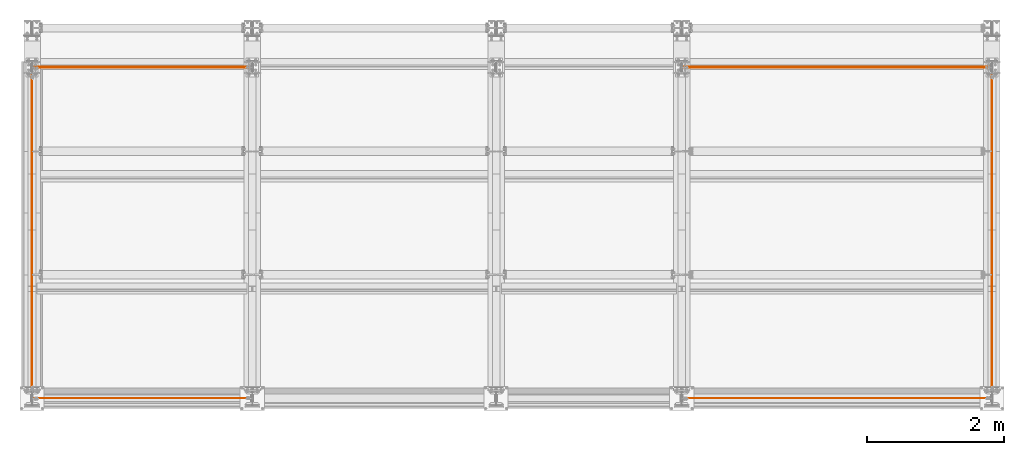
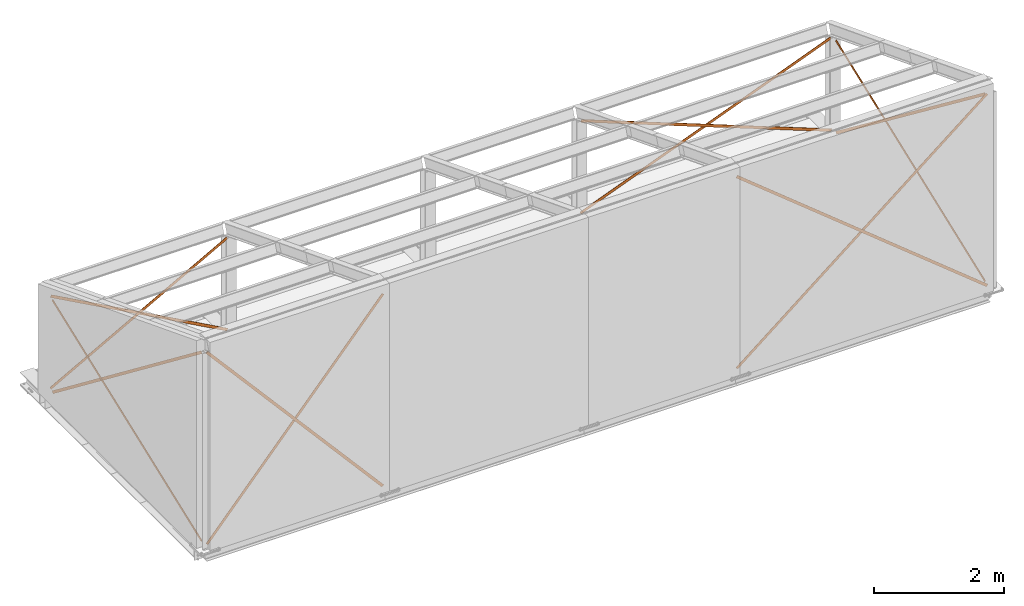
# One storey, part 66 of 66: 12 proxies.
"""IFC4 building model written with IfcOpenShell, lengths in metres."""

from ifc_helpers import new_model, si_unit, frame, origin_with_axes, origin_2d_with_axis, place, context, project, spatial, rectangle, extrude, clip, halfspace, material, material_profile, profile_set, profile_usage, type_object, element, save


model = new_model("IFC4")

# Units and contexts
model_context = context("Model", 3, precision=1e-05, world=origin_with_axes())
ifc_project = project(units=[si_unit("LENGTHUNIT", "METRE"), si_unit("AREAUNIT", "SQUARE_METRE"), si_unit("VOLUMEUNIT", "CUBIC_METRE"), si_unit("MASSUNIT", "GRAM", prefix="KILO"), si_unit("TIMEUNIT", "SECOND"), si_unit("PLANEANGLEUNIT", "RADIAN"), si_unit("SOLIDANGLEUNIT", "STERADIAN"), si_unit("THERMODYNAMICTEMPERATUREUNIT", "DEGREE_CELSIUS")], contexts=[model_context])

# Site, building, storey
placement_1 = place(None, origin_with_axes())
site = spatial("IfcSite", under=ifc_project, at=placement_1, Name="Italia", CompositionType="ELEMENT")
building = spatial("IfcBuilding", under=site, at=placement_1, Name="Uffici", CompositionType="ELEMENT")
storey_placement = place(None, frame((0.0, 0.0, 3.299999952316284), z_axis=(0.0, 0.0, 1.0), x_axis=(1.0, 0.0, 0.0)))
storey = spatial("IfcBuildingStorey", under=building, at=storey_placement, Name="Storey 1", CompositionType="ELEMENT", Elevation=3.299999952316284)

# Proxies
ifc_material = material(Name="Acciaio controventi", Category="Acciaio controventi")
ifc_material_profile = material_profile(ifc_material, rectangle(XDim=0.005, YDim=0.05, at=origin_2d_with_axis()), Name="4 Piatto50x5")
ifc_profile_set = profile_set([ifc_material_profile])
member_type_1 = type_object("IfcMemberType", Name="4 Piatto50x5", PredefinedType="MEMBER", material=ifc_profile_set)
placement_2 = place(placement_1, origin_with_axes())
proxy_1_placement = place(placement_2, frame((13.970001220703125, -2.630031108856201, 8.976302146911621), z_axis=(0.0, 0.0, 1.0), x_axis=(1.0, 0.0, 0.0)))
element("IfcBuildingElementProxy", 1, at=proxy_1_placement, inside=storey, type_object=member_type_1, Name="0", context=model_context, shape_type="Clipping", body=[
    clip(clip(extrude(rectangle(XDim=0.005, YDim=0.05, at=origin_2d_with_axis()), frame((0.0, 0.0, 0.0), z_axis=(0.0, 0.79404228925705, -0.607862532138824), x_axis=(-1.0, 0.0, 0.0)), (0.0, 0.0, 1.0), 12.5734), halfspace(frame((0.0, 2.73787, -2.09592), z_axis=(2.99562714e-07, -0.794039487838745, 0.607866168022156), x_axis=(1.0, 3.77264257e-07, 0.0)), False)), halfspace(frame((0.0, 7.33589, -5.61584), z_axis=(0.0, -0.794042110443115, 0.607862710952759), x_axis=(1.0, 0.0, 0.0)), True)),
])
ifc_profile_usage_1 = profile_usage(ifc_profile_set, cardinal=5)
member_type_2 = type_object("IfcMemberType", Name="4 Piatto50x5", PredefinedType="MEMBER", material=ifc_profile_usage_1)
proxy_2_placement = place(placement_2, frame((0.0, -2.612285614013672, 9.000502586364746), z_axis=(0.0, 0.0, 1.0), x_axis=(1.0, 0.0, 0.0)))
element("IfcBuildingElementProxy", 2, at=proxy_2_placement, inside=storey, type_object=member_type_2, Name="0", context=model_context, shape_type="Clipping", body=[
    clip(clip(extrude(rectangle(XDim=0.005, YDim=0.05, at=origin_2d_with_axis()), frame((0.0, 0.0, 0.0), z_axis=(0.0, 0.792104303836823, -0.610385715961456), x_axis=(-1.0, 0.0, 0.0)), (0.0, 0.0, 1.0), 12.5738), halfspace(frame((0.0, 2.72017, -2.09613), z_axis=(0.0, -0.792105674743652, 0.610383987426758), x_axis=(1.0, 0.0, 0.0)), False)), halfspace(frame((0.0, 7.3181, -5.63924), z_axis=(0.0, -0.792095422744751, 0.610397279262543), x_axis=(1.0, 0.0, 0.0)), True)),
])
ifc_profile_usage_2 = profile_usage(ifc_profile_set, cardinal=5)
member_type_3 = type_object("IfcMemberType", Name="4 Piatto50x5", PredefinedType="MEMBER", material=ifc_profile_usage_2)
proxy_3_placement = place(placement_2, frame((7.067131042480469, 4.815000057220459, 6.035168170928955), z_axis=(0.0, 0.0, 1.0), x_axis=(1.0, 0.0, 0.0)))
element("IfcBuildingElementProxy", 3, at=proxy_3_placement, inside=storey, type_object=member_type_3, Name="0", context=model_context, shape_type="Clipping", body=[
    clip(clip(extrude(rectangle(XDim=0.005, YDim=0.05, at=origin_2d_with_axis()), frame((0.0, 0.0, 0.0), z_axis=(0.931649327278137, 0.0, -0.363358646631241), x_axis=(0.0, 1.0, 0.0)), (0.0, 0.0, 1.0), 9.90214), halfspace(frame((2.41859, 0.0, -0.94329), z_axis=(-0.931647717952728, 0.0, 0.363362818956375), x_axis=(0.0, -1.0, 0.0)), False)), halfspace(frame((6.88147, 0.0, -2.68389), z_axis=(-0.931650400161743, 0.0, 0.363355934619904), x_axis=(0.0, -1.0, 0.0)), True)),
])
ifc_profile_usage_3 = profile_usage(ifc_profile_set, cardinal=5)
member_type_4 = type_object("IfcMemberType", Name="4 Piatto50x5", PredefinedType="MEMBER", material=ifc_profile_usage_3)
proxy_4_placement = place(placement_2, frame((7.132548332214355, 4.820000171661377, 2.437139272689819), z_axis=(0.0, 0.0, 1.0), x_axis=(1.0, 0.0, 0.0)))
element("IfcBuildingElementProxy", 4, at=proxy_4_placement, inside=storey, type_object=member_type_4, Name="0", context=model_context, shape_type="Clipping", body=[
    clip(clip(extrude(rectangle(XDim=0.005, YDim=0.05, at=origin_2d_with_axis()), frame((0.0, 0.0, 0.0), z_axis=(0.931649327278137, 0.0, 0.363358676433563), x_axis=(0.0, 1.0, 0.0)), (0.0, 0.0, 1.0), 9.90214), halfspace(frame((2.34385, 0.0, 0.914142), z_axis=(-0.931650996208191, 0.0, -0.363354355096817), x_axis=(0.0, -1.0, 0.0)), False)), halfspace(frame((6.80674, 0.0, 2.65474), z_axis=(-0.931645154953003, 0.0, -0.363369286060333), x_axis=(0.0, -1.0, 0.0)), True)),
])
ifc_profile_usage_4 = profile_usage(ifc_profile_set, cardinal=5)
member_type_5 = type_object("IfcMemberType", Name="4 Piatto50x5", PredefinedType="MEMBER", material=ifc_profile_usage_4)
proxy_5_placement = place(placement_2, frame((-1.760275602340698, 4.820000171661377, 6.081572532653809), z_axis=(0.0, 0.0, 1.0), x_axis=(1.0, 0.0, 0.0)))
element("IfcBuildingElementProxy", 5, at=proxy_5_placement, inside=storey, type_object=member_type_5, Name="0", context=model_context, shape_type="Clipping", body=[
    clip(clip(extrude(rectangle(XDim=0.005, YDim=0.05, at=origin_2d_with_axis()), frame((0.0, 0.0, 0.0), z_axis=(0.875843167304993, 0.0, -0.482595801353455), x_axis=(0.0, 1.0, 0.0)), (0.0, 0.0, 1.0), 7.59076), halfspace(frame((1.79286, 0.0, -0.987877), z_axis=(-0.875849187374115, 0.0, 0.482584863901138), x_axis=(0.0, -1.0, 0.0)), False)), halfspace(frame((4.94145, 0.0, -2.72277), z_axis=(-0.875845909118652, 0.0, 0.482590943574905), x_axis=(0.0, -1.0, 0.0)), True)),
])
ifc_profile_usage_5 = profile_usage(ifc_profile_set, cardinal=5)
member_type_6 = type_object("IfcMemberType", Name="4 Piatto50x5", PredefinedType="MEMBER", material=ifc_profile_usage_5)
proxy_6_placement = place(placement_2, frame((-1.683042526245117, 4.815000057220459, 2.418301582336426), z_axis=(0.0, 0.0, 1.0), x_axis=(1.0, 0.0, 0.0)))
element("IfcBuildingElementProxy", 6, at=proxy_6_placement, inside=storey, type_object=member_type_6, Name="0", context=model_context, shape_type="Clipping", body=[
    clip(clip(extrude(rectangle(XDim=0.005, YDim=0.05, at=origin_2d_with_axis()), frame((0.0, 0.0, 0.0), z_axis=(0.875843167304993, 0.0, 0.482595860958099), x_axis=(0.0, 1.0, 0.0)), (0.0, 0.0, 1.0), 7.59076), halfspace(frame((1.70687, 0.0, 0.940495), z_axis=(-0.875842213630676, -2.99500556e-07, -0.48259761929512), x_axis=(3.41957218e-07, -1.0, 0.0)), False)), halfspace(frame((4.85546, 0.0, 2.67539), z_axis=(-0.875842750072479, 0.0, -0.482596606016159), x_axis=(0.0, -1.0, 0.0)), True)),
])
ifc_profile_usage_6 = profile_usage(ifc_profile_set, cardinal=5)
member_type_7 = type_object("IfcMemberType", Name="4 Piatto50x5", PredefinedType="MEMBER", material=ifc_profile_usage_6)
proxy_7_placement = place(placement_2, frame((13.970001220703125, -2.484958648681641, 2.36834454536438), z_axis=(0.0, 0.0, 1.0), x_axis=(1.0, 0.0, 0.0)))
element("IfcBuildingElementProxy", 7, at=proxy_7_placement, inside=storey, type_object=member_type_7, Name="0", context=model_context, shape_type="Clipping", body=[
    clip(clip(extrude(rectangle(XDim=0.005, YDim=0.05, at=origin_2d_with_axis()), frame((0.0, 0.0, 0.0), z_axis=(0.0, 0.935024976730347, 0.354581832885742), x_axis=(-1.0, 0.0, 0.0)), (0.0, 0.0, 1.0), 10.6127), halfspace(frame((0.0, 2.58867, 0.981681), z_axis=(0.0, -0.935025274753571, -0.354581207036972), x_axis=(1.0, 0.0, 0.0)), False)), halfspace(frame((0.0, 7.19761, 2.72949), z_axis=(-2.99562231e-07, -0.935021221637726, -0.354591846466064), x_axis=(1.0, -3.20380138e-07, 0.0)), True)),
])
ifc_profile_usage_7 = profile_usage(ifc_profile_set, cardinal=5)
member_type_8 = type_object("IfcMemberType", Name="4 Piatto50x5", PredefinedType="MEMBER", material=ifc_profile_usage_7)
proxy_8_placement = place(placement_2, frame((0.0, -2.484958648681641, 2.36834454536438), z_axis=(0.0, 0.0, 1.0), x_axis=(1.0, 0.0, 0.0)))
element("IfcBuildingElementProxy", 8, at=proxy_8_placement, inside=storey, type_object=member_type_8, Name="0", context=model_context, shape_type="Clipping", body=[
    clip(clip(extrude(rectangle(XDim=0.005, YDim=0.05, at=origin_2d_with_axis()), frame((0.0, 0.0, 0.0), z_axis=(0.0, 0.935024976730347, 0.354581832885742), x_axis=(-1.0, 0.0, 0.0)), (0.0, 0.0, 1.0), 10.6127), halfspace(frame((0.0, 2.58867, 0.981681), z_axis=(2.99508116e-07, -0.935025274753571, -0.35458117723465), x_axis=(1.0, 3.20320879e-07, 0.0)), False)), halfspace(frame((0.0, 7.19761, 2.72949), z_axis=(-2.99515051e-07, -0.935022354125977, -0.354588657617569), x_axis=(1.0, -3.20329292e-07, 0.0)), True)),
])
ifc_profile_usage_8 = profile_usage(ifc_profile_set, cardinal=5)
member_type_9 = type_object("IfcMemberType", Name="4 Piatto50x5", PredefinedType="MEMBER", material=ifc_profile_usage_8)
proxy_9_placement = place(placement_2, frame((-1.663764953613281, 0.0, 1.381460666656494), z_axis=(0.0, 0.0, 1.0), x_axis=(1.0, 0.0, 0.0)))
element("IfcBuildingElementProxy", 9, at=proxy_9_placement, inside=storey, type_object=member_type_9, Name="0", context=model_context, shape_type="Clipping", body=[
    clip(clip(extrude(rectangle(XDim=0.005, YDim=0.05, at=origin_2d_with_axis()), frame((0.0, 0.0, 0.0), z_axis=(0.655162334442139, 0.0, 0.755488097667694), x_axis=(0.0, 1.0, 0.0)), (0.0, 0.0, 1.0), 10.1554), halfspace(frame((1.69876, 0.0, 1.95889), z_axis=(-0.655166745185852, -2.99510845e-07, -0.755484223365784), x_axis=(4.57152083e-07, -1.0, 0.0)), False)), halfspace(frame((4.83705, 0.0, 5.57775), z_axis=(-0.655166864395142, -2.99508656e-07, -0.755484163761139), x_axis=(4.57148673e-07, -1.0, 0.0)), True)),
])
ifc_profile_usage_9 = profile_usage(ifc_profile_set, cardinal=5)
member_type_10 = type_object("IfcMemberType", Name="4 Piatto50x5", PredefinedType="MEMBER", material=ifc_profile_usage_9)
proxy_10_placement = place(placement_2, frame((-1.784644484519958, 0.0, 9.053714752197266), z_axis=(0.0, 0.0, 1.0), x_axis=(1.0, 0.0, 0.0)))
element("IfcBuildingElementProxy", 10, at=proxy_10_placement, inside=storey, type_object=member_type_10, Name="0", context=model_context, shape_type="Clipping", body=[
    clip(clip(extrude(rectangle(XDim=0.005, YDim=0.05, at=origin_2d_with_axis()), frame((0.0, 0.0, 0.0), z_axis=(0.655162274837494, 0.0, -0.755488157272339), x_axis=(0.0, 1.0, 0.0)), (0.0, 0.0, 1.0), 10.1554), halfspace(frame((1.81636, 0.0, -2.0945), z_axis=(-0.655177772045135, 0.0, 0.755474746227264), x_axis=(0.0, -1.0, 0.0)), False)), halfspace(frame((4.95465, 0.0, -5.71337), z_axis=(-0.655154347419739, 2.9951002e-07, 0.755495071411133), x_axis=(-4.57159473e-07, -1.0, 0.0)), True)),
])
ifc_profile_usage_10 = profile_usage(ifc_profile_set, cardinal=5)
member_type_11 = type_object("IfcMemberType", Name="4 Piatto50x5", PredefinedType="MEMBER", material=ifc_profile_usage_10)
proxy_11_placement = place(placement_2, frame((7.114111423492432, 0.0, 1.429749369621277), z_axis=(0.0, 0.0, 1.0), x_axis=(1.0, 0.0, 0.0)))
element("IfcBuildingElementProxy", 11, at=proxy_11_placement, inside=storey, type_object=member_type_11, Name="0", context=model_context, shape_type="Clipping", body=[
    clip(clip(extrude(rectangle(XDim=0.005, YDim=0.05, at=origin_2d_with_axis()), frame((0.0, 0.0, 0.0), z_axis=(0.777085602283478, 0.0, 0.629394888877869), x_axis=(0.0, 1.0, 0.0)), (0.0, 0.0, 1.0), 11.9808), halfspace(frame((2.3674, 0.0, 1.91746), z_axis=(-0.777071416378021, 0.0, -0.629412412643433), x_axis=(0.0, -1.0, 0.0)), False)), halfspace(frame((6.82939, 0.0, 5.53141), z_axis=(-0.777071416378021, 0.0, -0.629412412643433), x_axis=(0.0, -1.0, 0.0)), True)),
])
ifc_profile_usage_11 = profile_usage(ifc_profile_set, cardinal=5)
member_type_12 = type_object("IfcMemberType", Name="4 Piatto50x5", PredefinedType="MEMBER", material=ifc_profile_usage_11)
proxy_12_placement = place(placement_2, frame((7.000816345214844, 0.0, 8.970376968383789), z_axis=(0.0, 0.0, 1.0), x_axis=(1.0, 0.0, 0.0)))
element("IfcBuildingElementProxy", 12, at=proxy_12_placement, inside=storey, type_object=member_type_12, Name="0", context=model_context, shape_type="Clipping", body=[
    clip(clip(extrude(rectangle(XDim=0.005, YDim=0.05, at=origin_2d_with_axis()), frame((0.0, 0.0, 0.0), z_axis=(0.777085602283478, 0.0, -0.629394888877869), x_axis=(0.0, 1.0, 0.0)), (0.0, 0.0, 1.0), 11.9808), halfspace(frame((2.48069, 0.0, -2.00922), z_axis=(-0.777093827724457, 2.99501664e-07, 0.629384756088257), x_axis=(-3.85412477e-07, -1.0, 0.0)), False)), halfspace(frame((6.94268, 0.0, -5.62317), z_axis=(-0.777101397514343, 2.99506041e-07, 0.629375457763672), x_axis=(-3.85414353e-07, -1.0, 0.0)), True)),
])

save(model, "model.ifc")
